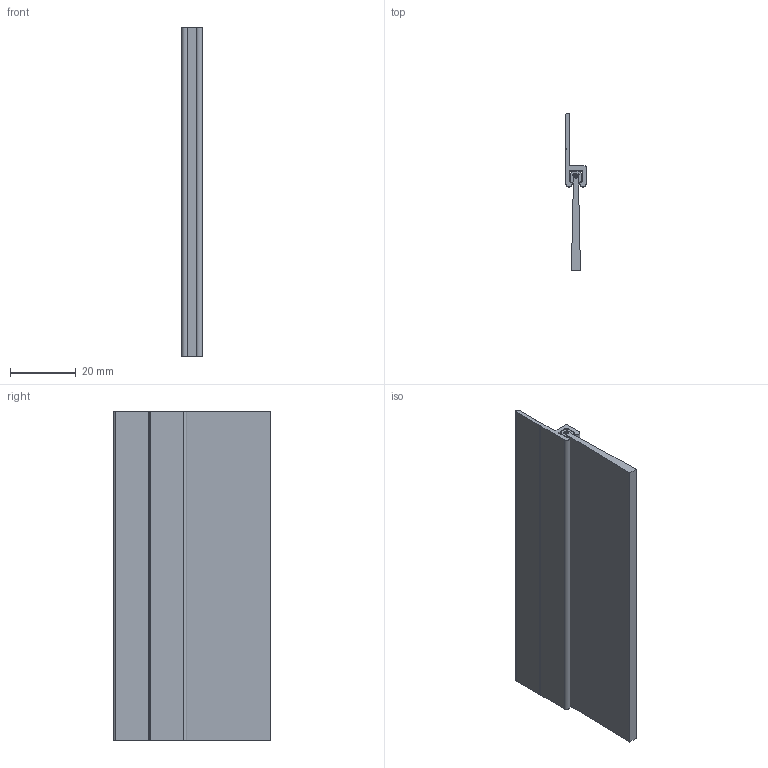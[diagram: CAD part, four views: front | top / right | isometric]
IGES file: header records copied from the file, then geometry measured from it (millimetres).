
Global section: file name: No Iges File Name specified; native system: Autodesk Inventor 2012; preprocessor: AutoDesk Inventor Iges Exporter R2012; author: anna.b; date: 20130830.143027; units: millimetre
Bounding box: 6.24 x 47.63 x 100 mm (x, y, z)
Volume: 10808.4 mm3; surface area: 15107.9 mm2
Topology: 3 solids, 3 shells, 55 faces, 147 edges, 98 vertices
Faces by surface type: plane 38, cylinder 9, revolution 8
